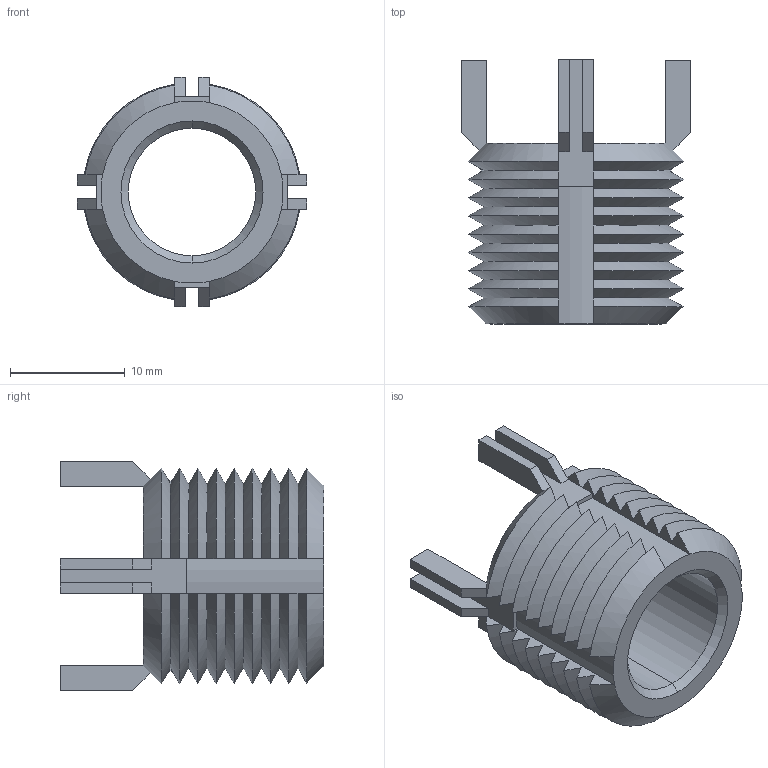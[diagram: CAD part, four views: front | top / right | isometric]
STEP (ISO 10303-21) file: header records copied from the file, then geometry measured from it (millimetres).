
FILE_DESCRIPTION (( 'STEP AP203' ), '1' );
FILE_NAME ('22024.W5371.step', '2020-01-04T21:57:27', ( '' ), ( '' ), 'SwSTEP 2.0', 'SolidWorks 2017', '' );
FILE_SCHEMA (( 'CONFIG_CONTROL_DESIGN' ));
Length unit declared in the file: millimetre
Products named in the file (1): 22024.W5371
Bounding box: 19.99 x 22.99 x 19.99 mm (x, y, z)
Volume: 2290.9 mm3; surface area: 2726.5 mm2
Topology: 1 solids, 1 shells, 156 faces, 418 edges, 264 vertices
Faces by surface type: cone 76, plane 74, cylinder 6
Entity records: 5051 total; most frequent: CARTESIAN_POINT 1343, ORIENTED_EDGE 836, DIRECTION 656, EDGE_CURVE 418, VERTEX_POINT 264, AXIS2_PLACEMENT_3D 249, B_SPLINE_CURVE_WITH_KNOTS 168, LINE 158
